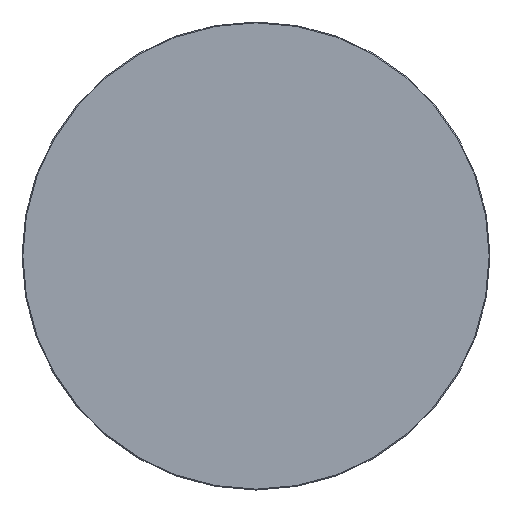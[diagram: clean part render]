
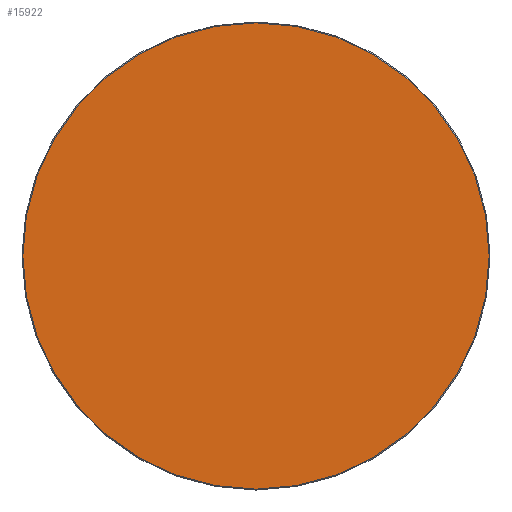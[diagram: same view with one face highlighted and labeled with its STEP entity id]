
A CAD part, top view. The second image highlights one B-rep face of the part: STEP entity #15922.
In plain terms, the highlighted planar face has unit normal (0, 0, 1).
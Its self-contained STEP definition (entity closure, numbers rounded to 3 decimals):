
#15847=CARTESIAN_POINT('',(0.,0.,20.));
#15848=DIRECTION('',(1.,0.,0.));
#15849=DIRECTION('',(0.,0.,1.));
#15850=AXIS2_PLACEMENT_3D('',#15847,#15849,#15848);
#15851=PLANE('',#15850);
#15852=CARTESIAN_POINT('',(-0.5,-398.5,20.));
#15853=VERTEX_POINT('',#15852);
#15854=CARTESIAN_POINT('',(0.5,-398.5,20.));
#15855=VERTEX_POINT('',#15854);
#15856=CARTESIAN_POINT('',(-0.5,-398.5,20.));
#15857=DIRECTION('',(1.,0.,0.));
#15858=VECTOR('',#15857,1.);
#15859=LINE('',#15856,#15858);
#15860=EDGE_CURVE('',#15853,#15855,#15859,.T.);
#15861=ORIENTED_EDGE('E105',*,*,#15860,.T.);
#15862=CARTESIAN_POINT('',(398.5,-0.5,20.));
#15863=VERTEX_POINT('',#15862);
#15864=CARTESIAN_POINT('',(0.5,-0.5,20.));
#15865=DIRECTION('',(0.,-1.,0.));
#15866=DIRECTION('',(0.,0.,1.));
#15867=AXIS2_PLACEMENT_3D('',#15864,#15866,#15865);
#15868=CIRCLE('',#15867,398.);
#15869=EDGE_CURVE('',#15855,#15863,#15868,.T.);
#15870=ORIENTED_EDGE('E107',*,*,#15869,.T.);
#15871=CARTESIAN_POINT('',(398.5,0.5,20.));
#15872=VERTEX_POINT('',#15871);
#15873=CARTESIAN_POINT('',(398.5,-0.5,20.));
#15874=DIRECTION('',(0.,1.,0.));
#15875=VECTOR('',#15874,1.);
#15876=LINE('',#15873,#15875);
#15877=EDGE_CURVE('',#15863,#15872,#15876,.T.);
#15878=ORIENTED_EDGE('E109',*,*,#15877,.T.);
#15879=CARTESIAN_POINT('',(0.5,398.5,20.));
#15880=VERTEX_POINT('',#15879);
#15881=CARTESIAN_POINT('',(0.5,0.5,20.));
#15882=DIRECTION('',(1.,0.,0.));
#15883=DIRECTION('',(0.,0.,1.));
#15884=AXIS2_PLACEMENT_3D('',#15881,#15883,#15882);
#15885=CIRCLE('',#15884,398.);
#15886=EDGE_CURVE('',#15872,#15880,#15885,.T.);
#15887=ORIENTED_EDGE('E111',*,*,#15886,.T.);
#15888=CARTESIAN_POINT('',(-0.5,398.5,20.));
#15889=VERTEX_POINT('',#15888);
#15890=CARTESIAN_POINT('',(0.5,398.5,20.));
#15891=DIRECTION('',(-1.,0.,0.));
#15892=VECTOR('',#15891,1.);
#15893=LINE('',#15890,#15892);
#15894=EDGE_CURVE('',#15880,#15889,#15893,.T.);
#15895=ORIENTED_EDGE('E113',*,*,#15894,.T.);
#15896=CARTESIAN_POINT('',(-398.5,0.5,20.));
#15897=VERTEX_POINT('',#15896);
#15898=CARTESIAN_POINT('',(-0.5,0.5,20.));
#15899=DIRECTION('',(0.,1.,0.));
#15900=DIRECTION('',(0.,0.,1.));
#15901=AXIS2_PLACEMENT_3D('',#15898,#15900,#15899);
#15902=CIRCLE('',#15901,398.);
#15903=EDGE_CURVE('',#15889,#15897,#15902,.T.);
#15904=ORIENTED_EDGE('E115',*,*,#15903,.T.);
#15905=CARTESIAN_POINT('',(-398.5,-0.5,20.));
#15906=VERTEX_POINT('',#15905);
#15907=CARTESIAN_POINT('',(-398.5,0.5,20.));
#15908=DIRECTION('',(0.,-1.,0.));
#15909=VECTOR('',#15908,1.);
#15910=LINE('',#15907,#15909);
#15911=EDGE_CURVE('',#15897,#15906,#15910,.T.);
#15912=ORIENTED_EDGE('E117',*,*,#15911,.T.);
#15913=CARTESIAN_POINT('',(-0.5,-0.5,20.));
#15914=DIRECTION('',(-1.,0.,0.));
#15915=DIRECTION('',(-0.,0.,1.));
#15916=AXIS2_PLACEMENT_3D('',#15913,#15915,#15914);
#15917=CIRCLE('',#15916,398.);
#15918=EDGE_CURVE('',#15906,#15853,#15917,.T.);
#15919=ORIENTED_EDGE('E119',*,*,#15918,.T.);
#15920=EDGE_LOOP('',(#15861,#15870,#15878,#15887,#15895,#15904,#15912,#15919));
#15921=FACE_OUTER_BOUND('',#15920,.T.);
#15922=ADVANCED_FACE('F2',(#15921),#15851,.T.);
